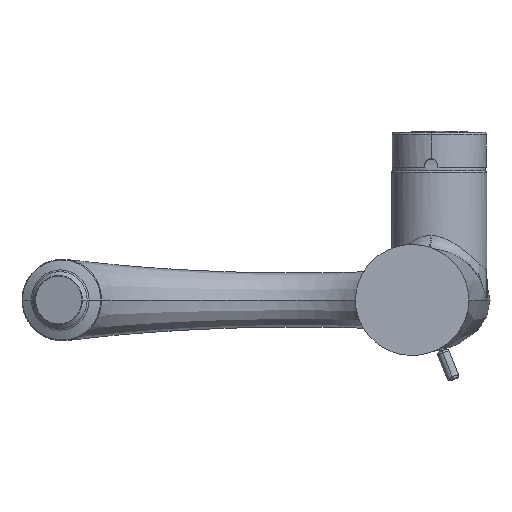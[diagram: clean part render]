
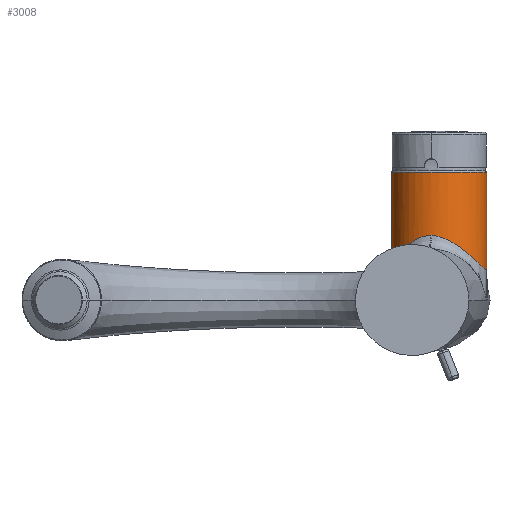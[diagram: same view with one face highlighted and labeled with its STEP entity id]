
A CAD part, front view. The second image highlights one B-rep face of the part: STEP entity #3008.
In plain terms, the highlighted cylindrical face has radius 20.2 mm (diameter 40.4 mm), a partial arc.
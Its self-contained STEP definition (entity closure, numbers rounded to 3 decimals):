
#667=CARTESIAN_POINT('',(11.2,66.,54.1));
#668=DIRECTION('',(0.,0.,-1.));
#669=DIRECTION('',(1.,0.,0.));
#670=AXIS2_PLACEMENT_3D('',#667,#668,#669);
#672=CARTESIAN_POINT('',(31.093,62.492,12.894));
#673=CARTESIAN_POINT('',(31.124,62.67,12.894));
#674=CARTESIAN_POINT('',(31.183,63.031,12.902));
#675=CARTESIAN_POINT('',(31.259,63.591,12.94));
#676=CARTESIAN_POINT('',(31.32,64.17,13.004));
#677=CARTESIAN_POINT('',(31.365,64.764,13.095));
#678=CARTESIAN_POINT('',(31.393,65.374,13.214));
#679=CARTESIAN_POINT('',(31.4,65.79,13.313));
#680=CARTESIAN_POINT('',(31.4,66.,13.367));
#682=CARTESIAN_POINT('',(31.093,62.492,12.894));
#683=CARTESIAN_POINT('',(31.061,62.31,12.894));
#684=CARTESIAN_POINT('',(30.991,61.942,12.902));
#685=CARTESIAN_POINT('',(30.867,61.378,12.943));
#686=CARTESIAN_POINT('',(30.723,60.802,13.013));
#687=CARTESIAN_POINT('',(30.557,60.214,13.113));
#688=CARTESIAN_POINT('',(30.368,59.616,13.245));
#689=CARTESIAN_POINT('',(30.154,59.005,13.41));
#690=CARTESIAN_POINT('',(29.909,58.374,13.613));
#691=CARTESIAN_POINT('',(29.631,57.722,13.857));
#692=CARTESIAN_POINT('',(29.317,57.056,14.142));
#693=CARTESIAN_POINT('',(28.969,56.382,14.466));
#694=CARTESIAN_POINT('',(28.582,55.699,14.831));
#695=CARTESIAN_POINT('',(28.154,55.008,15.239));
#696=CARTESIAN_POINT('',(27.676,54.302,15.699));
#697=CARTESIAN_POINT('',(27.142,53.583,16.211));
#698=CARTESIAN_POINT('',(26.567,52.879,16.758));
#699=CARTESIAN_POINT('',(25.97,52.211,17.318));
#700=CARTESIAN_POINT('',(25.38,51.606,17.863));
#701=CARTESIAN_POINT('',(24.8,51.057,18.388));
#702=CARTESIAN_POINT('',(24.18,50.515,18.938));
#703=CARTESIAN_POINT('',(23.488,49.958,19.537));
#704=CARTESIAN_POINT('',(22.725,49.401,20.179));
#705=CARTESIAN_POINT('',(21.892,48.851,20.856));
#706=CARTESIAN_POINT('',(21.009,48.331,21.545));
#707=CARTESIAN_POINT('',(20.099,47.856,22.226));
#708=CARTESIAN_POINT('',(19.189,47.438,22.873));
#709=CARTESIAN_POINT('',(18.296,47.079,23.476));
#710=CARTESIAN_POINT('',(17.419,46.774,24.033));
#711=CARTESIAN_POINT('',(16.564,46.519,24.543));
#712=CARTESIAN_POINT('',(15.731,46.309,25.006));
#713=CARTESIAN_POINT('',(14.924,46.141,25.422));
#714=CARTESIAN_POINT('',(14.142,46.01,25.792));
#715=CARTESIAN_POINT('',(13.386,45.914,26.117));
#716=CARTESIAN_POINT('',(12.657,45.848,26.399));
#717=CARTESIAN_POINT('',(11.955,45.81,26.64));
#718=CARTESIAN_POINT('',(11.278,45.797,26.842));
#719=CARTESIAN_POINT('',(10.626,45.805,27.007));
#720=CARTESIAN_POINT('',(9.997,45.833,27.139));
#721=CARTESIAN_POINT('',(9.391,45.878,27.238));
#722=CARTESIAN_POINT('',(8.807,45.939,27.306));
#723=CARTESIAN_POINT('',(8.242,46.015,27.345));
#724=CARTESIAN_POINT('',(7.874,46.075,27.354));
#725=CARTESIAN_POINT('',(7.692,46.107,27.353));
#727=CARTESIAN_POINT('',(-9.,66.,12.873));
#728=CARTESIAN_POINT('',(-9.,65.801,12.926));
#729=CARTESIAN_POINT('',(-8.994,65.389,13.044));
#730=CARTESIAN_POINT('',(-8.964,64.736,13.262));
#731=CARTESIAN_POINT('',(-8.909,64.045,13.528));
#732=CARTESIAN_POINT('',(-8.825,63.313,13.845));
#733=CARTESIAN_POINT('',(-8.707,62.539,14.215));
#734=CARTESIAN_POINT('',(-8.548,61.723,14.641));
#735=CARTESIAN_POINT('',(-8.345,60.873,15.123));
#736=CARTESIAN_POINT('',(-8.094,59.995,15.659));
#737=CARTESIAN_POINT('',(-7.791,59.095,16.246));
#738=CARTESIAN_POINT('',(-7.433,58.179,16.88));
#739=CARTESIAN_POINT('',(-7.019,57.257,17.552));
#740=CARTESIAN_POINT('',(-6.551,56.34,18.256));
#741=CARTESIAN_POINT('',(-6.03,55.439,18.988));
#742=CARTESIAN_POINT('',(-5.458,54.558,19.732));
#743=CARTESIAN_POINT('',(-4.84,53.707,20.476));
#744=CARTESIAN_POINT('',(-4.183,52.894,21.211));
#745=CARTESIAN_POINT('',(-3.495,52.127,21.925));
#746=CARTESIAN_POINT('',(-2.784,51.411,22.609));
#747=CARTESIAN_POINT('',(-2.056,50.747,23.252));
#748=CARTESIAN_POINT('',(-1.319,50.138,23.852));
#749=CARTESIAN_POINT('',(-0.582,49.584,24.402));
#750=CARTESIAN_POINT('',(0.146,49.086,24.899));
#751=CARTESIAN_POINT('',(0.856,48.643,25.339));
#752=CARTESIAN_POINT('',(1.547,48.25,25.724));
#753=CARTESIAN_POINT('',(2.225,47.898,26.06));
#754=CARTESIAN_POINT('',(2.891,47.583,26.354));
#755=CARTESIAN_POINT('',(3.543,47.303,26.607));
#756=CARTESIAN_POINT('',(4.177,47.056,26.817));
#757=CARTESIAN_POINT('',(4.794,46.839,26.99));
#758=CARTESIAN_POINT('',(5.397,46.648,27.127));
#759=CARTESIAN_POINT('',(5.987,46.481,27.23));
#760=CARTESIAN_POINT('',(6.565,46.336,27.302));
#761=CARTESIAN_POINT('',(7.133,46.211,27.344));
#762=CARTESIAN_POINT('',(7.507,46.14,27.353));
#763=CARTESIAN_POINT('',(7.692,46.107,27.353));
#765=DIRECTION('',(0.,0.,1.));
#766=VECTOR('',#765,41.227);
#767=CARTESIAN_POINT('',(-9.,66.,12.873));
#768=LINE('',#767,#766);
#782=CARTESIAN_POINT('',(-9.,66.,12.873));
#867=DIRECTION('',(0.,0.,1.));
#868=VECTOR('',#867,40.733);
#869=CARTESIAN_POINT('',(31.4,66.,13.367));
#870=LINE('',#869,#868);
#1406=CARTESIAN_POINT('',(7.692,46.107,27.353));
#1908=CARTESIAN_POINT('',(31.4,66.,54.1));
#1909=CARTESIAN_POINT('',(-9.,66.,54.1));
#1910=VERTEX_POINT('',#1908);
#1911=VERTEX_POINT('',#1909);
#1924=VERTEX_POINT('',#782);
#1925=VERTEX_POINT('',#672);
#1926=VERTEX_POINT('',#680);
#1930=VERTEX_POINT('',#1406);
#2990=CARTESIAN_POINT('',(11.2,66.,0.));
#2991=DIRECTION('',(0.,0.,1.));
#2992=DIRECTION('',(1.,0.,0.));
#2993=AXIS2_PLACEMENT_3D('',#2990,#2991,#2992);
#2994=CYLINDRICAL_SURFACE('',#2993,20.2);
#2995=ORIENTED_EDGE('',*,*,#2972,.F.);
#2997=ORIENTED_EDGE('',*,*,#2996,.F.);
#2999=ORIENTED_EDGE('',*,*,#2998,.F.);
#3001=ORIENTED_EDGE('',*,*,#3000,.T.);
#3003=ORIENTED_EDGE('',*,*,#3002,.F.);
#3005=ORIENTED_EDGE('',*,*,#3004,.T.);
#3006=EDGE_LOOP('',(#2995,#2997,#2999,#3001,#3003,#3005));
#3007=FACE_OUTER_BOUND('',#3006,.F.);
#671=CIRCLE('',#670,20.2);
#681=B_SPLINE_CURVE_WITH_KNOTS('',3,(#672,#673,#674,#675,#676,#677,#678,#679,
#680),.UNSPECIFIED.,.F.,.F.,(4,1,1,1,1,1,4),(0.,0.167,
0.333,0.5,0.667,0.833,1.),
.UNSPECIFIED.);
#726=B_SPLINE_CURVE_WITH_KNOTS('',3,(#682,#683,#684,#685,#686,#687,#688,#689,
#690,#691,#692,#693,#694,#695,#696,#697,#698,#699,#700,#701,#702,#703,#704,#705,
#706,#707,#708,#709,#710,#711,#712,#713,#714,#715,#716,#717,#718,#719,#720,#721,
#722,#723,#724,#725),.UNSPECIFIED.,.F.,.F.,(4,1,1,1,1,1,1,1,1,1,1,1,1,1,1,1,1,1,
1,1,1,1,1,1,1,1,1,1,1,1,1,1,1,1,1,1,1,1,1,1,1,4),(0.,0.024,
0.049,0.073,0.098,0.122,
0.146,0.171,0.195,0.22,
0.244,0.268,0.293,0.317,
0.341,0.366,0.39,0.415,
0.439,0.463,0.488,0.512,
0.537,0.561,0.585,0.61,
0.634,0.659,0.683,0.707,
0.732,0.756,0.78,0.805,
0.829,0.854,0.878,0.902,
0.927,0.951,0.976,1.),.UNSPECIFIED.);
#764=B_SPLINE_CURVE_WITH_KNOTS('',3,(#727,#728,#729,#730,#731,#732,#733,#734,
#735,#736,#737,#738,#739,#740,#741,#742,#743,#744,#745,#746,#747,#748,#749,#750,
#751,#752,#753,#754,#755,#756,#757,#758,#759,#760,#761,#762,#763),.UNSPECIFIED.,
.F.,.F.,(4,1,1,1,1,1,1,1,1,1,1,1,1,1,1,1,1,1,1,1,1,1,1,1,1,1,1,1,1,1,1,1,1,1,4),
(0.,0.029,0.059,0.088,0.118,
0.147,0.176,0.206,0.235,
0.265,0.294,0.324,0.353,
0.382,0.412,0.441,0.471,0.5,
0.529,0.559,0.588,0.618,
0.647,0.676,0.706,0.735,
0.765,0.794,0.824,0.853,
0.882,0.912,0.941,0.971,1.),
.UNSPECIFIED.);
#2972=EDGE_CURVE('',#1910,#1911,#671,.T.);
#2996=EDGE_CURVE('',#1926,#1910,#870,.T.);
#2998=EDGE_CURVE('',#1925,#1926,#681,.T.);
#3000=EDGE_CURVE('',#1925,#1930,#726,.T.);
#3002=EDGE_CURVE('',#1924,#1930,#764,.T.);
#3004=EDGE_CURVE('',#1924,#1911,#768,.T.);
#3008=ADVANCED_FACE('',(#3007),#2994,.T.);
